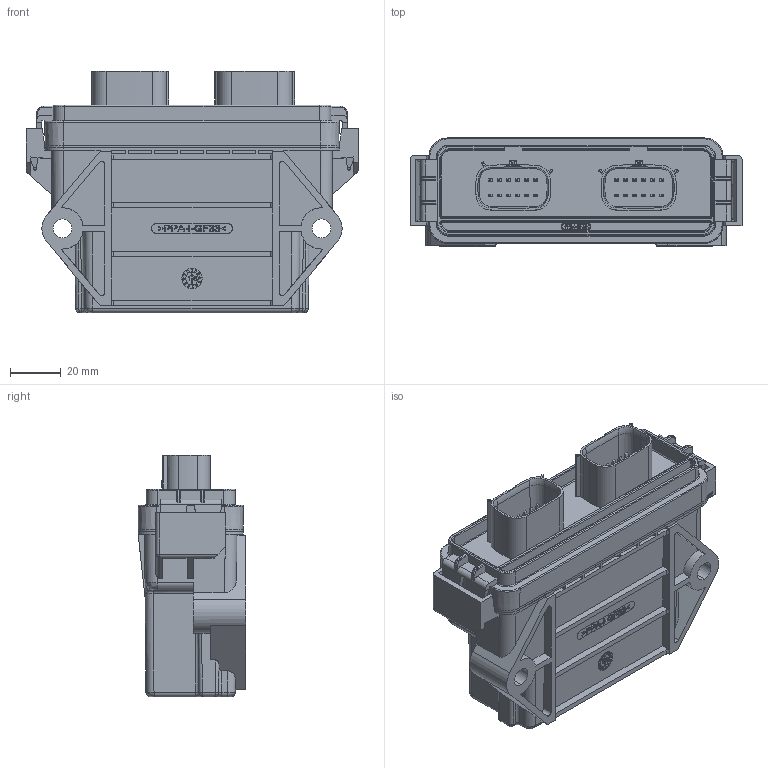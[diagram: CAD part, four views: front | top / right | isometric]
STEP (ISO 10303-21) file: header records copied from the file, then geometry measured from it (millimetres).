
FILE_DESCRIPTION((''),'2;1');
FILE_NAME('4215050X01','2025-07-22T10:14:24',('MG1'),(''),'CREO PARAMETRIC BY PTC INC, 2021424','CREO PARAMETRIC BY PTC INC, 2021424','');
FILE_SCHEMA(('CONFIG_CONTROL_DESIGN'));
Products named in the file (1): 4215050X01
Bounding box: 130.25 x 42.32 x 94.88 mm (x, y, z)
Volume: 102731.1 mm3; surface area: 91525.3 mm2
Topology: 1 solids, 1 shells, 3921 faces, 11000 edges, 7064 vertices
Faces by surface type: plane 2954, cylinder 559, extrusion 207, bspline 70, torus 66, cone 49, sphere 14, revolution 2
Entity records: 133259 total; most frequent: CARTESIAN_POINT 33056, ORIENTED_EDGE 21972, DIRECTION 18902, EDGE_CURVE 10986, VECTOR 9232, LINE 9025, VERTEX_POINT 7064, AXIS2_PLACEMENT_3D 4834
